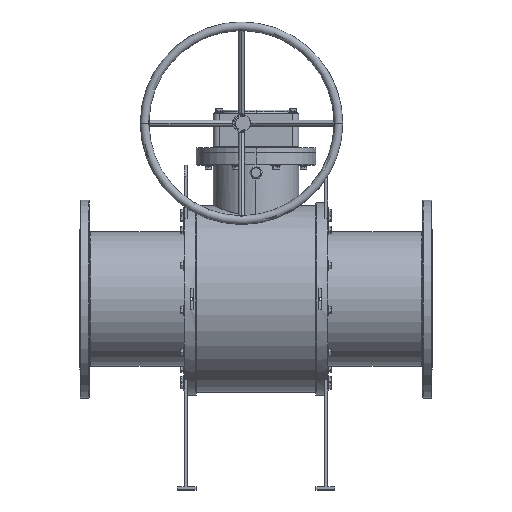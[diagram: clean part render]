
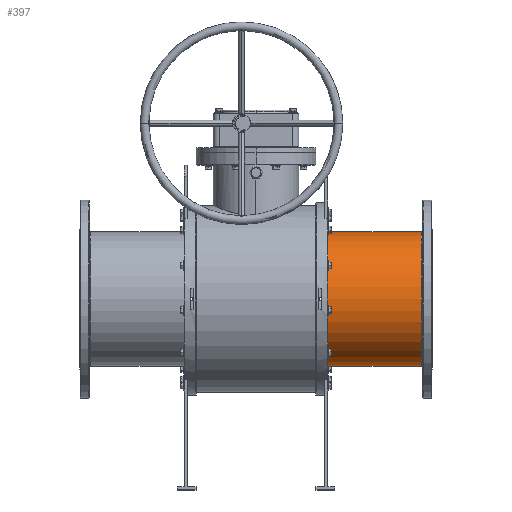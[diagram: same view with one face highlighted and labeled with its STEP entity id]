
A CAD part, top view. The second image highlights one B-rep face of the part: STEP entity #397.
In plain terms, the highlighted cylindrical face has radius 232.75 mm (diameter 465.5 mm), a partial arc.
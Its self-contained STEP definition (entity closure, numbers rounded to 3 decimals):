
#237 = CARTESIAN_POINT ( 'NONE',  ( -609.5, 0., 0. ) ) ;
#397 = ADVANCED_FACE ( 'NONE', ( #2460 ), #23428, .T. ) ;
#1075 = AXIS2_PLACEMENT_3D ( 'NONE', #2260, #18949, #4068 ) ;
#2221 = EDGE_CURVE ( 'NONE', #4485, #25862, #5918, .T. ) ;
#2260 = CARTESIAN_POINT ( 'NONE',  ( 572.5, 0., 0. ) ) ;
#2460 = FACE_OUTER_BOUND ( 'NONE', #23580, .T. ) ;
#2941 = CARTESIAN_POINT ( 'NONE',  ( -609.5, 232.75, 0. ) ) ;
#3073 = LINE ( 'NONE', #2941, #10786 ) ;
#4068 = DIRECTION ( 'NONE',  ( 0., 1., 0. ) ) ;
#4485 = VERTEX_POINT ( 'NONE', #9071 ) ;
#4851 = VERTEX_POINT ( 'NONE', #11878 ) ;
#5918 = CIRCLE ( 'NONE', #17900, 232.75 ) ;
#6749 = VECTOR ( 'NONE', #26847, 1000. ) ;
#8684 = DIRECTION ( 'NONE',  ( -1., 0., 0. ) ) ;
#9071 = CARTESIAN_POINT ( 'NONE',  ( 247.5, 232.75, 0. ) ) ;
#9872 = LINE ( 'NONE', #18381, #6749 ) ;
#10786 = VECTOR ( 'NONE', #23619, 1000. ) ;
#10905 = DIRECTION ( 'NONE',  ( 0., -1., 0. ) ) ;
#11216 = CARTESIAN_POINT ( 'NONE',  ( 247.5, -232.75, 0. ) ) ;
#11878 = CARTESIAN_POINT ( 'NONE',  ( 572.5, -232.75, 0. ) ) ;
#11917 = ORIENTED_EDGE ( 'NONE', *, *, #18628, .F. ) ;
#12124 = ORIENTED_EDGE ( 'NONE', *, *, #12804, .T. ) ;
#12534 = ORIENTED_EDGE ( 'NONE', *, *, #16532, .T. ) ;
#12804 = EDGE_CURVE ( 'NONE', #26680, #4485, #3073, .T. ) ;
#14340 = DIRECTION ( 'NONE',  ( 1., 0., 0. ) ) ;
#14533 = ORIENTED_EDGE ( 'NONE', *, *, #2221, .T. ) ;
#16532 = EDGE_CURVE ( 'NONE', #4851, #26680, #25913, .T. ) ;
#17900 = AXIS2_PLACEMENT_3D ( 'NONE', #18657, #14340, #20478 ) ;
#18381 = CARTESIAN_POINT ( 'NONE',  ( -609.5, -232.75, 0. ) ) ;
#18628 = EDGE_CURVE ( 'NONE', #4851, #25862, #9872, .T. ) ;
#18657 = CARTESIAN_POINT ( 'NONE',  ( 247.5, 0., 0. ) ) ;
#18949 = DIRECTION ( 'NONE',  ( -1., 0., 0. ) ) ;
#20478 = DIRECTION ( 'NONE',  ( 0., 0., -1. ) ) ;
#21878 = AXIS2_PLACEMENT_3D ( 'NONE', #237, #8684, #10905 ) ;
#23428 = CYLINDRICAL_SURFACE ( 'NONE', #21878, 232.75 ) ;
#23580 = EDGE_LOOP ( 'NONE', ( #12534, #12124, #14533, #11917 ) ) ;
#23619 = DIRECTION ( 'NONE',  ( -1., 0., 0. ) ) ;
#24572 = CARTESIAN_POINT ( 'NONE',  ( 572.5, 232.75, 0. ) ) ;
#25862 = VERTEX_POINT ( 'NONE', #11216 ) ;
#25913 = CIRCLE ( 'NONE', #1075, 232.75 ) ;
#26680 = VERTEX_POINT ( 'NONE', #24572 ) ;
#26847 = DIRECTION ( 'NONE',  ( -1., 0., 0. ) ) ;
